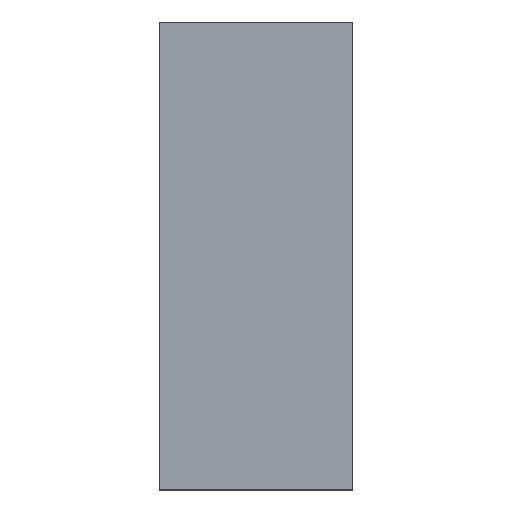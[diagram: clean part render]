
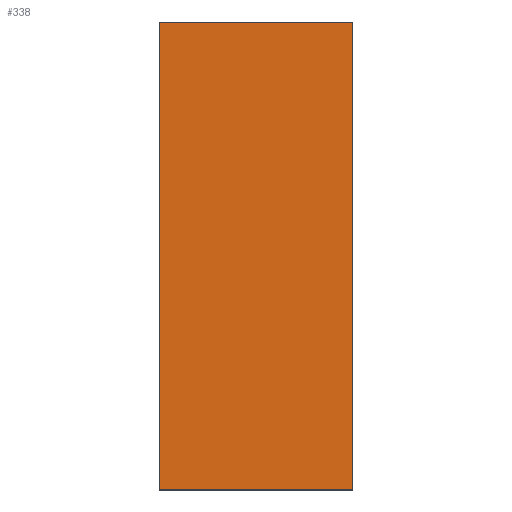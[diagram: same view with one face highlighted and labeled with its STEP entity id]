
A CAD part, top view. The second image highlights one B-rep face of the part: STEP entity #338.
In plain terms, the highlighted planar face has unit normal (0, 0, 1).
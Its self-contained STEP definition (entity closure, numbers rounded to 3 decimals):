
#24 = VERTEX_POINT('',#25);
#25 = CARTESIAN_POINT('',(-106.,-145.913,0.));
#32 = PLANE('',#33);
#33 = AXIS2_PLACEMENT_3D('',#34,#35,#36);
#34 = CARTESIAN_POINT('',(-106.,-145.913,-1.));
#35 = DIRECTION('',(1.,0.,-0.));
#36 = DIRECTION('',(0.,0.,1.));
#44 = PLANE('',#45);
#45 = AXIS2_PLACEMENT_3D('',#46,#47,#48);
#46 = CARTESIAN_POINT('',(-106.,-145.913,-1.));
#47 = DIRECTION('',(-0.,1.,0.));
#48 = DIRECTION('',(0.,0.,1.));
#85 = VERTEX_POINT('',#86);
#86 = CARTESIAN_POINT('',(-106.,-87.913,0.));
#100 = PLANE('',#101);
#101 = AXIS2_PLACEMENT_3D('',#102,#103,#104);
#102 = CARTESIAN_POINT('',(-106.,-87.913,-1.));
#103 = DIRECTION('',(-0.,1.,0.));
#104 = DIRECTION('',(0.,0.,1.));
#112 = EDGE_CURVE('',#24,#85,#113,.T.);
#113 = SURFACE_CURVE('',#114,(#118,#125),.PCURVE_S1.);
#114 = LINE('',#115,#116);
#115 = CARTESIAN_POINT('',(-106.,-145.913,0.));
#116 = VECTOR('',#117,1.);
#117 = DIRECTION('',(-0.,1.,0.));
#118 = PCURVE('',#32,#119);
#119 = DEFINITIONAL_REPRESENTATION('',(#120),#124);
#120 = LINE('',#121,#122);
#121 = CARTESIAN_POINT('',(1.,0.));
#122 = VECTOR('',#123,1.);
#123 = DIRECTION('',(0.,-1.));
#124 = ( GEOMETRIC_REPRESENTATION_CONTEXT(2) 
PARAMETRIC_REPRESENTATION_CONTEXT() REPRESENTATION_CONTEXT('2D SPACE',''
  ) );
#125 = PCURVE('',#126,#131);
#126 = PLANE('',#127);
#127 = AXIS2_PLACEMENT_3D('',#128,#129,#130);
#128 = CARTESIAN_POINT('',(-106.,-145.913,0.));
#129 = DIRECTION('',(0.,0.,1.));
#130 = DIRECTION('',(1.,0.,-0.));
#131 = DEFINITIONAL_REPRESENTATION('',(#132),#136);
#132 = LINE('',#133,#134);
#133 = CARTESIAN_POINT('',(0.,0.));
#134 = VECTOR('',#135,1.);
#135 = DIRECTION('',(0.,1.));
#136 = ( GEOMETRIC_REPRESENTATION_CONTEXT(2) 
PARAMETRIC_REPRESENTATION_CONTEXT() REPRESENTATION_CONTEXT('2D SPACE',''
  ) );
#144 = VERTEX_POINT('',#145);
#145 = CARTESIAN_POINT('',(-82.,-145.913,0.));
#152 = PLANE('',#153);
#153 = AXIS2_PLACEMENT_3D('',#154,#155,#156);
#154 = CARTESIAN_POINT('',(-82.,-145.913,-1.));
#155 = DIRECTION('',(1.,0.,-0.));
#156 = DIRECTION('',(0.,0.,1.));
#195 = VERTEX_POINT('',#196);
#196 = CARTESIAN_POINT('',(-82.,-87.913,0.));
#217 = EDGE_CURVE('',#144,#195,#218,.T.);
#218 = SURFACE_CURVE('',#219,(#223,#230),.PCURVE_S1.);
#219 = LINE('',#220,#221);
#220 = CARTESIAN_POINT('',(-82.,-145.913,0.));
#221 = VECTOR('',#222,1.);
#222 = DIRECTION('',(-0.,1.,0.));
#223 = PCURVE('',#152,#224);
#224 = DEFINITIONAL_REPRESENTATION('',(#225),#229);
#225 = LINE('',#226,#227);
#226 = CARTESIAN_POINT('',(1.,0.));
#227 = VECTOR('',#228,1.);
#228 = DIRECTION('',(0.,-1.));
#229 = ( GEOMETRIC_REPRESENTATION_CONTEXT(2) 
PARAMETRIC_REPRESENTATION_CONTEXT() REPRESENTATION_CONTEXT('2D SPACE',''
  ) );
#230 = PCURVE('',#126,#231);
#231 = DEFINITIONAL_REPRESENTATION('',(#232),#236);
#232 = LINE('',#233,#234);
#233 = CARTESIAN_POINT('',(24.,0.));
#234 = VECTOR('',#235,1.);
#235 = DIRECTION('',(0.,1.));
#236 = ( GEOMETRIC_REPRESENTATION_CONTEXT(2) 
PARAMETRIC_REPRESENTATION_CONTEXT() REPRESENTATION_CONTEXT('2D SPACE',''
  ) );
#263 = EDGE_CURVE('',#24,#144,#264,.T.);
#264 = SURFACE_CURVE('',#265,(#269,#276),.PCURVE_S1.);
#265 = LINE('',#266,#267);
#266 = CARTESIAN_POINT('',(-106.,-145.913,0.));
#267 = VECTOR('',#268,1.);
#268 = DIRECTION('',(1.,0.,-0.));
#269 = PCURVE('',#44,#270);
#270 = DEFINITIONAL_REPRESENTATION('',(#271),#275);
#271 = LINE('',#272,#273);
#272 = CARTESIAN_POINT('',(1.,0.));
#273 = VECTOR('',#274,1.);
#274 = DIRECTION('',(0.,1.));
#275 = ( GEOMETRIC_REPRESENTATION_CONTEXT(2) 
PARAMETRIC_REPRESENTATION_CONTEXT() REPRESENTATION_CONTEXT('2D SPACE',''
  ) );
#276 = PCURVE('',#126,#277);
#277 = DEFINITIONAL_REPRESENTATION('',(#278),#282);
#278 = LINE('',#279,#280);
#279 = CARTESIAN_POINT('',(0.,0.));
#280 = VECTOR('',#281,1.);
#281 = DIRECTION('',(1.,0.));
#282 = ( GEOMETRIC_REPRESENTATION_CONTEXT(2) 
PARAMETRIC_REPRESENTATION_CONTEXT() REPRESENTATION_CONTEXT('2D SPACE',''
  ) );
#310 = EDGE_CURVE('',#85,#195,#311,.T.);
#311 = SURFACE_CURVE('',#312,(#316,#323),.PCURVE_S1.);
#312 = LINE('',#313,#314);
#313 = CARTESIAN_POINT('',(-106.,-87.913,0.));
#314 = VECTOR('',#315,1.);
#315 = DIRECTION('',(1.,0.,-0.));
#316 = PCURVE('',#100,#317);
#317 = DEFINITIONAL_REPRESENTATION('',(#318),#322);
#318 = LINE('',#319,#320);
#319 = CARTESIAN_POINT('',(1.,0.));
#320 = VECTOR('',#321,1.);
#321 = DIRECTION('',(0.,1.));
#322 = ( GEOMETRIC_REPRESENTATION_CONTEXT(2) 
PARAMETRIC_REPRESENTATION_CONTEXT() REPRESENTATION_CONTEXT('2D SPACE',''
  ) );
#323 = PCURVE('',#126,#324);
#324 = DEFINITIONAL_REPRESENTATION('',(#325),#329);
#325 = LINE('',#326,#327);
#326 = CARTESIAN_POINT('',(0.,58.));
#327 = VECTOR('',#328,1.);
#328 = DIRECTION('',(1.,0.));
#329 = ( GEOMETRIC_REPRESENTATION_CONTEXT(2) 
PARAMETRIC_REPRESENTATION_CONTEXT() REPRESENTATION_CONTEXT('2D SPACE',''
  ) );
#338 = ADVANCED_FACE('',(#339),#126,.T.);
#339 = FACE_BOUND('',#340,.T.);
#340 = EDGE_LOOP('',(#341,#342,#343,#344));
#341 = ORIENTED_EDGE('',*,*,#112,.F.);
#342 = ORIENTED_EDGE('',*,*,#263,.T.);
#343 = ORIENTED_EDGE('',*,*,#217,.T.);
#344 = ORIENTED_EDGE('',*,*,#310,.F.);
